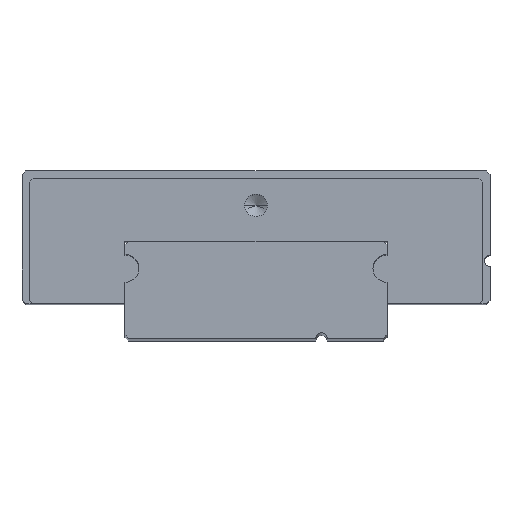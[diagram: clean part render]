
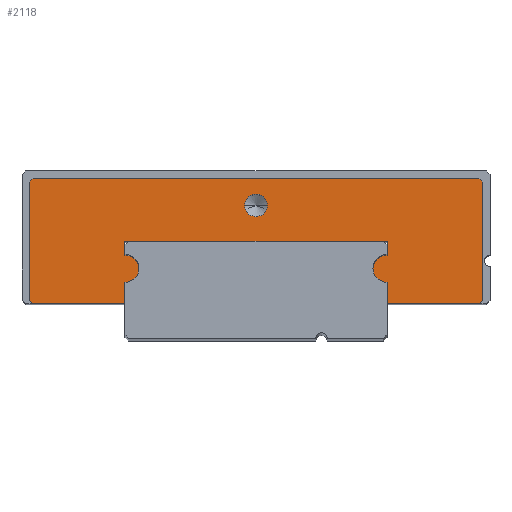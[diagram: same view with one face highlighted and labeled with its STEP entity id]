
A CAD part, top view. The second image highlights one B-rep face of the part: STEP entity #2118.
In plain terms, the highlighted planar face has unit normal (0, 0, 1).
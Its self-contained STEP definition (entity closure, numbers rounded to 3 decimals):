
#1201=CARTESIAN_POINT('',(-7.,3.75,15.6));
#1202=DIRECTION('',(0.,0.,-1.));
#1203=DIRECTION('',(0.,1.,0.));
#1204=AXIS2_PLACEMENT_3D('',#1201,#1202,#1203);
#1206=CARTESIAN_POINT('',(-7.,3.75,15.6));
#1207=DIRECTION('',(0.,0.,-1.));
#1208=DIRECTION('',(1.,0.,0.));
#1209=AXIS2_PLACEMENT_3D('',#1206,#1207,#1208);
#1211=DIRECTION('',(-1.,0.,0.));
#1212=VECTOR('',#1211,4.9);
#1213=CARTESIAN_POINT('',(-7.,1.9,15.6));
#1214=LINE('',#1213,#1212);
#1215=DIRECTION('',(-0.707,0.707,0.));
#1216=VECTOR('',#1215,0.283);
#1217=CARTESIAN_POINT('',(-11.9,1.9,15.6));
#1218=LINE('',#1217,#1216);
#1219=DIRECTION('',(0.,1.,0.));
#1220=VECTOR('',#1219,6.3);
#1221=CARTESIAN_POINT('',(-12.1,2.1,15.6));
#1222=LINE('',#1221,#1220);
#1223=DIRECTION('',(0.707,0.707,0.));
#1224=VECTOR('',#1223,0.283);
#1225=CARTESIAN_POINT('',(-12.1,8.4,15.6));
#1226=LINE('',#1225,#1224);
#1227=DIRECTION('',(1.,0.,0.));
#1228=VECTOR('',#1227,23.8);
#1229=CARTESIAN_POINT('',(-11.9,8.6,15.6));
#1230=LINE('',#1229,#1228);
#1231=DIRECTION('',(0.707,-0.707,0.));
#1232=VECTOR('',#1231,0.283);
#1233=CARTESIAN_POINT('',(11.9,8.6,15.6));
#1234=LINE('',#1233,#1232);
#1235=DIRECTION('',(-0.707,-0.707,0.));
#1236=VECTOR('',#1235,0.283);
#1237=CARTESIAN_POINT('',(12.1,2.1,15.6));
#1238=LINE('',#1237,#1236);
#1239=DIRECTION('',(-1.,0.,0.));
#1240=VECTOR('',#1239,4.9);
#1241=CARTESIAN_POINT('',(11.9,1.9,15.6));
#1242=LINE('',#1241,#1240);
#1243=CARTESIAN_POINT('',(7.,3.75,15.6));
#1244=DIRECTION('',(0.,0.,-1.));
#1245=DIRECTION('',(0.,-1.,0.));
#1246=AXIS2_PLACEMENT_3D('',#1243,#1244,#1245);
#1248=CARTESIAN_POINT('',(7.,3.75,15.6));
#1249=DIRECTION('',(0.,0.,-1.));
#1250=DIRECTION('',(-1.,0.,0.));
#1251=AXIS2_PLACEMENT_3D('',#1248,#1249,#1250);
#1253=CARTESIAN_POINT('',(0.,7.15,15.6));
#1254=DIRECTION('',(0.,0.,1.));
#1255=DIRECTION('',(1.,0.,0.));
#1256=AXIS2_PLACEMENT_3D('',#1253,#1254,#1255);
#1258=CARTESIAN_POINT('',(0.,7.15,15.6));
#1259=DIRECTION('',(0.,0.,1.));
#1260=DIRECTION('',(-1.,0.,0.));
#1261=AXIS2_PLACEMENT_3D('',#1258,#1259,#1260);
#1349=DIRECTION('',(0.,1.,0.));
#1350=VECTOR('',#1349,0.7);
#1351=CARTESIAN_POINT('',(-7.,4.5,15.6));
#1352=LINE('',#1351,#1350);
#1357=DIRECTION('',(1.,0.,0.));
#1358=VECTOR('',#1357,14.);
#1359=CARTESIAN_POINT('',(-7.,5.2,15.6));
#1360=LINE('',#1359,#1358);
#1365=DIRECTION('',(0.,-1.,0.));
#1366=VECTOR('',#1365,0.7);
#1367=CARTESIAN_POINT('',(7.,5.2,15.6));
#1368=LINE('',#1367,#1366);
#1377=DIRECTION('',(0.,-1.,0.));
#1378=VECTOR('',#1377,1.1);
#1379=CARTESIAN_POINT('',(7.,3.,15.6));
#1380=LINE('',#1379,#1378);
#1581=DIRECTION('',(0.,1.,0.));
#1582=VECTOR('',#1581,1.1);
#1583=CARTESIAN_POINT('',(-7.,1.9,15.6));
#1584=LINE('',#1583,#1582);
#1661=DIRECTION('',(0.,1.,0.));
#1662=VECTOR('',#1661,6.3);
#1663=CARTESIAN_POINT('',(12.1,2.1,15.6));
#1664=LINE('',#1663,#1662);
#1861=CARTESIAN_POINT('',(-7.,4.5,15.6));
#1862=CARTESIAN_POINT('',(-6.25,3.75,15.6));
#1863=VERTEX_POINT('',#1861);
#1864=VERTEX_POINT('',#1862);
#1865=CARTESIAN_POINT('',(-7.,3.,15.6));
#1866=VERTEX_POINT('',#1865);
#1867=CARTESIAN_POINT('',(-7.,1.9,15.6));
#1868=VERTEX_POINT('',#1867);
#1869=CARTESIAN_POINT('',(-11.9,1.9,15.6));
#1870=VERTEX_POINT('',#1869);
#1871=CARTESIAN_POINT('',(-12.1,2.1,15.6));
#1872=VERTEX_POINT('',#1871);
#1873=CARTESIAN_POINT('',(-12.1,8.4,15.6));
#1874=VERTEX_POINT('',#1873);
#1875=CARTESIAN_POINT('',(-11.9,8.6,15.6));
#1876=VERTEX_POINT('',#1875);
#1877=CARTESIAN_POINT('',(11.9,8.6,15.6));
#1878=VERTEX_POINT('',#1877);
#1879=CARTESIAN_POINT('',(12.1,8.4,15.6));
#1880=VERTEX_POINT('',#1879);
#1881=CARTESIAN_POINT('',(12.1,2.1,15.6));
#1882=VERTEX_POINT('',#1881);
#1883=CARTESIAN_POINT('',(11.9,1.9,15.6));
#1884=VERTEX_POINT('',#1883);
#1885=CARTESIAN_POINT('',(7.,1.9,15.6));
#1886=VERTEX_POINT('',#1885);
#1887=CARTESIAN_POINT('',(7.,3.,15.6));
#1888=VERTEX_POINT('',#1887);
#1889=CARTESIAN_POINT('',(6.25,3.75,15.6));
#1890=VERTEX_POINT('',#1889);
#1891=CARTESIAN_POINT('',(7.,4.5,15.6));
#1892=VERTEX_POINT('',#1891);
#1893=CARTESIAN_POINT('',(7.,5.2,15.6));
#1894=VERTEX_POINT('',#1893);
#1895=CARTESIAN_POINT('',(-7.,5.2,15.6));
#1896=VERTEX_POINT('',#1895);
#1897=CARTESIAN_POINT('',(0.6,7.15,15.6));
#1898=CARTESIAN_POINT('',(-0.6,7.15,15.6));
#1899=VERTEX_POINT('',#1897);
#1900=VERTEX_POINT('',#1898);
#2069=CARTESIAN_POINT('',(12.5,4.2,15.6));
#2070=DIRECTION('',(0.,0.,1.));
#2071=DIRECTION('',(1.,0.,0.));
#2072=AXIS2_PLACEMENT_3D('',#2069,#2070,#2071);
#2073=PLANE('',#2072);
#2075=ORIENTED_EDGE('',*,*,#2074,.T.);
#2077=ORIENTED_EDGE('',*,*,#2076,.T.);
#2079=ORIENTED_EDGE('',*,*,#2078,.F.);
#2081=ORIENTED_EDGE('',*,*,#2080,.T.);
#2083=ORIENTED_EDGE('',*,*,#2082,.T.);
#2085=ORIENTED_EDGE('',*,*,#2084,.T.);
#2087=ORIENTED_EDGE('',*,*,#2086,.T.);
#2089=ORIENTED_EDGE('',*,*,#2088,.T.);
#2091=ORIENTED_EDGE('',*,*,#2090,.T.);
#2093=ORIENTED_EDGE('',*,*,#2092,.F.);
#2095=ORIENTED_EDGE('',*,*,#2094,.T.);
#2097=ORIENTED_EDGE('',*,*,#2096,.T.);
#2099=ORIENTED_EDGE('',*,*,#2098,.F.);
#2101=ORIENTED_EDGE('',*,*,#2100,.T.);
#2103=ORIENTED_EDGE('',*,*,#2102,.T.);
#2105=ORIENTED_EDGE('',*,*,#2104,.F.);
#2107=ORIENTED_EDGE('',*,*,#2106,.F.);
#2109=ORIENTED_EDGE('',*,*,#2108,.F.);
#2110=EDGE_LOOP('',(#2075,#2077,#2079,#2081,#2083,#2085,#2087,#2089,#2091,#2093,
#2095,#2097,#2099,#2101,#2103,#2105,#2107,#2109));
#2111=FACE_OUTER_BOUND('',#2110,.F.);
#2113=ORIENTED_EDGE('',*,*,#2112,.T.);
#2115=ORIENTED_EDGE('',*,*,#2114,.T.);
#2116=EDGE_LOOP('',(#2113,#2115));
#2117=FACE_BOUND('',#2116,.F.);
#2118=ADVANCED_FACE('',(#2111,#2117),#2073,.T.);
#1205=CIRCLE('',#1204,0.75);
#1210=CIRCLE('',#1209,0.75);
#1247=CIRCLE('',#1246,0.75);
#1252=CIRCLE('',#1251,0.75);
#1257=CIRCLE('',#1256,0.6);
#1262=CIRCLE('',#1261,0.6);
#2074=EDGE_CURVE('',#1863,#1864,#1205,.T.);
#2076=EDGE_CURVE('',#1864,#1866,#1210,.T.);
#2078=EDGE_CURVE('',#1868,#1866,#1584,.T.);
#2080=EDGE_CURVE('',#1868,#1870,#1214,.T.);
#2082=EDGE_CURVE('',#1870,#1872,#1218,.T.);
#2084=EDGE_CURVE('',#1872,#1874,#1222,.T.);
#2086=EDGE_CURVE('',#1874,#1876,#1226,.T.);
#2088=EDGE_CURVE('',#1876,#1878,#1230,.T.);
#2090=EDGE_CURVE('',#1878,#1880,#1234,.T.);
#2092=EDGE_CURVE('',#1882,#1880,#1664,.T.);
#2094=EDGE_CURVE('',#1882,#1884,#1238,.T.);
#2096=EDGE_CURVE('',#1884,#1886,#1242,.T.);
#2098=EDGE_CURVE('',#1888,#1886,#1380,.T.);
#2100=EDGE_CURVE('',#1888,#1890,#1247,.T.);
#2102=EDGE_CURVE('',#1890,#1892,#1252,.T.);
#2104=EDGE_CURVE('',#1894,#1892,#1368,.T.);
#2106=EDGE_CURVE('',#1896,#1894,#1360,.T.);
#2108=EDGE_CURVE('',#1863,#1896,#1352,.T.);
#2112=EDGE_CURVE('',#1899,#1900,#1257,.T.);
#2114=EDGE_CURVE('',#1900,#1899,#1262,.T.);
